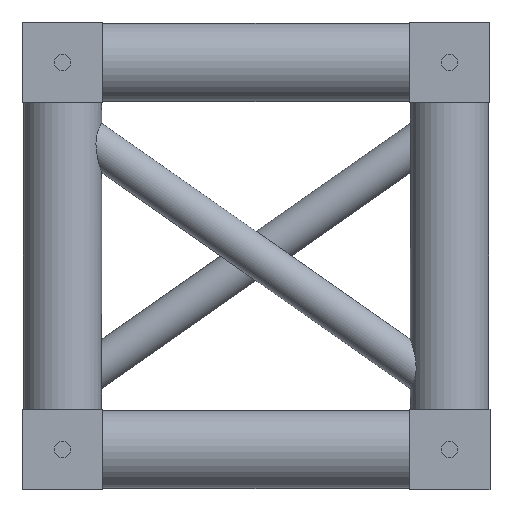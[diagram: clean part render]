
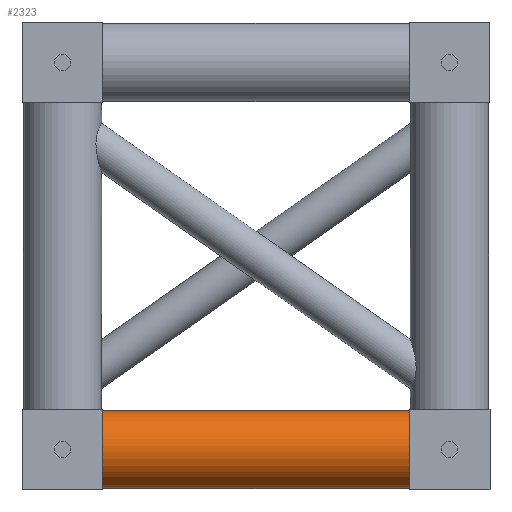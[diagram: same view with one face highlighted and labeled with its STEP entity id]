
A CAD part, left-side view. The second image highlights one B-rep face of the part: STEP entity #2323.
In plain terms, the highlighted cylindrical face has radius 24.15 mm (diameter 48.3 mm), a full revolution.
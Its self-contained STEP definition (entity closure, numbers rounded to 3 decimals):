
#392=FACE_BOUND('',#677,.T.);
#526=FACE_OUTER_BOUND('',#676,.T.);
#676=EDGE_LOOP('',(#1554));
#677=EDGE_LOOP('',(#1555));
#934=CIRCLE('',#2484,24.15);
#935=CIRCLE('',#2485,24.15);
#1036=VERTEX_POINT('',#4133);
#1037=VERTEX_POINT('',#4135);
#1260=EDGE_CURVE('',#1036,#1036,#934,.T.);
#1261=EDGE_CURVE('',#1037,#1037,#935,.T.);
#1554=ORIENTED_EDGE('',*,*,#1260,.F.);
#1555=ORIENTED_EDGE('',*,*,#1261,.F.);
#2104=CYLINDRICAL_SURFACE('',#2483,24.15);
#2323=ADVANCED_FACE('',(#526,#392),#2104,.T.);
#2483=AXIS2_PLACEMENT_3D('',#4132,#2837,#2838);
#2484=AXIS2_PLACEMENT_3D('',#4134,#2839,#2840);
#2485=AXIS2_PLACEMENT_3D('',#4136,#2841,#2842);
#2837=DIRECTION('center_axis',(0.,-1.,0.));
#2838=DIRECTION('ref_axis',(0.715,0.,0.699));
#2839=DIRECTION('center_axis',(0.,-1.,0.));
#2840=DIRECTION('ref_axis',(0.715,0.,0.699));
#2841=DIRECTION('center_axis',(0.,1.,0.));
#2842=DIRECTION('ref_axis',(0.715,0.,0.699));
#4132=CARTESIAN_POINT('Origin',(0.,-25.,
-239.));
#4133=CARTESIAN_POINT('',(-17.274,-214.,-255.877));
#4134=CARTESIAN_POINT('Origin',(0.,-214.,
-239.));
#4135=CARTESIAN_POINT('',(-17.274,-25.,-255.877));
#4136=CARTESIAN_POINT('Origin',(0.,-25.,-239.));
